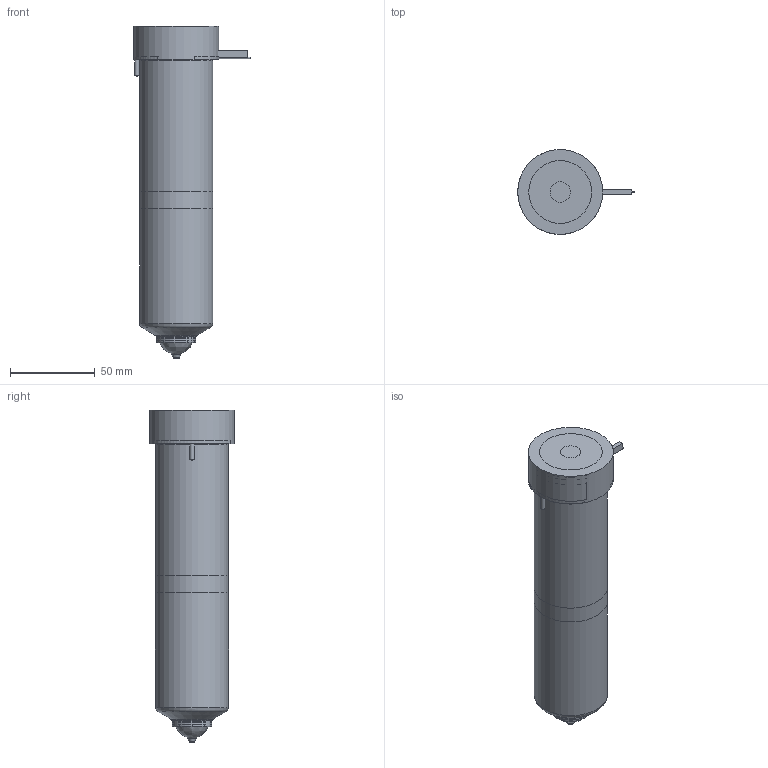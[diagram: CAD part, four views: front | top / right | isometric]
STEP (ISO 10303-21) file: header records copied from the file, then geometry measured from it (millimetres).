
FILE_DESCRIPTION(/* description */ (''),/* implementation_level */ '2;1');
FILE_NAME(/* name */ 'BXOV27175_200C_b',/* time_stamp */ '2007-01-18T08:47:52+13:00',/* author */ (''),/* organization */ (''),/* preprocessor_version */ 'ST-DEVELOPER v9',/* originating_system */ 'UGS - NX 4.0',/* authorisation */ '');
FILE_SCHEMA (('CONFIG_CONTROL_DESIGN'));
Length unit declared in the file: millimetre
Products named in the file (1): BXOV27175_200C_b
Bounding box: 68.6 x 50 x 195.46 mm (x, y, z)
Volume: 506647.5 mm3; surface area: 62132.7 mm2
Topology: 6 solids, 6 shells, 86 faces, 171 edges, 109 vertices
Faces by surface type: plane 35, cylinder 25, cone 14, torus 9, bspline 3
Full cylindrical faces by diameter (mm): 1 x3, 2.5 x2, 5 x1, 12 x1, 16.8 x1, 17 x1, 22.61 x1, 23.01 x2, 27.5 x1, 38.1 x1, 43 x2, 50 x1
Entity records: 2273 total; most frequent: CARTESIAN_POINT 571, DIRECTION 356, ORIENTED_EDGE 254, AXIS2_PLACEMENT_3D 159, EDGE_LOOP 134, EDGE_CURVE 127, VERTEX_POINT 102, ADVANCED_FACE 86
